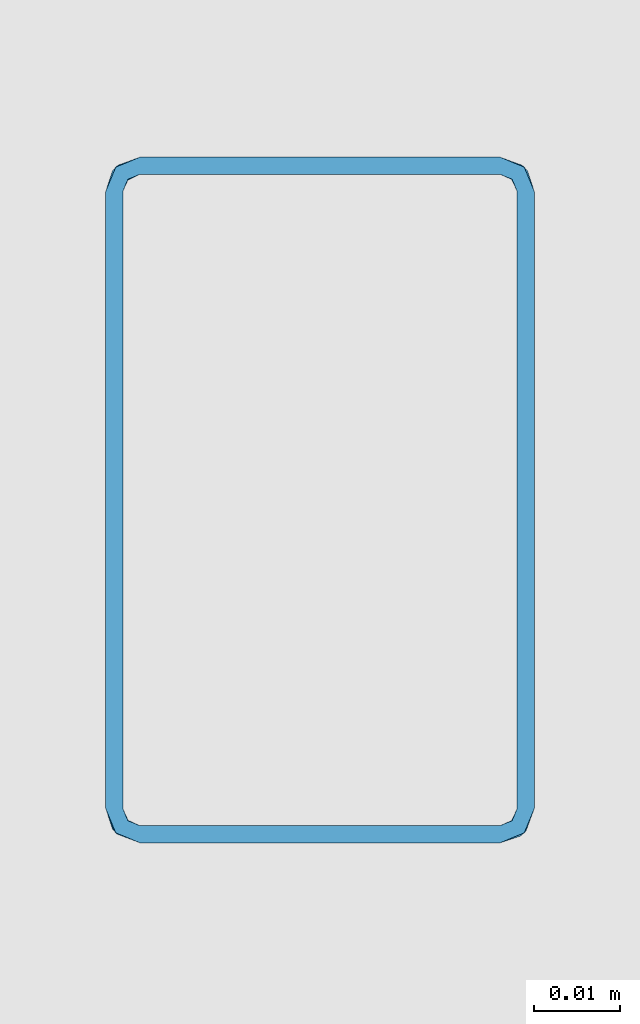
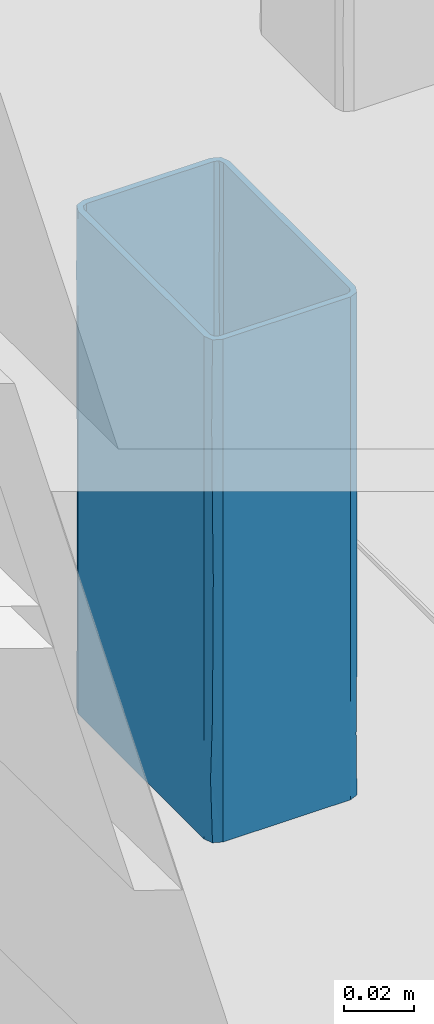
# One storey, part 153 of 186: 1 beam.
"""IFC4X3_ADD2 building model written with IfcOpenShell, lengths in millimetres."""

import ifcopenshell
import ifcopenshell.guid

model = None  # the IFC model being written
_history = None  # IfcOwnerHistory: only IFC2X3 demands one
_inside = {}  # id of a spatial element -> (the spatial element, [elements in it])
_under = {}  # id of a project, library or spatial element -> (it, [spatial elements below it])
_declared = {}  # id of a project -> (the project, [libraries it declares])
_typed = {}  # id of a type object -> (the type object, [elements of that type])
_made_of = {}  # id of a material, layer set ... -> (it, [elements and type objects made of it])


def new_model(schema):
    """Start an empty IFC model of exactly this schema.

    Asked for "IFC4X3", IfcOpenShell would pick the latest addendum, in which some entities
    have other attributes; the version numbers below select the first issue.
    IFC2X3 requires an IfcOwnerHistory on every rooted entity: one is made here for all.
    """
    global model, _history
    if schema == "IFC4X3":
        model = ifcopenshell.file(schema_version=(4, 3, 0, 0))
    else:
        model = ifcopenshell.file(schema=schema)
    _inside.clear()
    _under.clear()
    _declared.clear()
    _typed.clear()
    _made_of.clear()
    _history = None
    if model.schema == "IFC2X3":
        org = make("IfcOrganization", Name="unknown")
        user = make(
            "IfcPersonAndOrganization",
            ThePerson=make("IfcPerson", FamilyName="unknown"),
            TheOrganization=org,
        )
        app = make(
            "IfcApplication",
            ApplicationDeveloper=org,
            Version="unknown",
            ApplicationFullName="unknown",
            ApplicationIdentifier="unknown",
        )
        _history = make(
            "IfcOwnerHistory",
            OwningUser=user,
            OwningApplication=app,
            ChangeAction="ADDED",
            CreationDate=0,
        )
    return model


def make(cls, **values):
    """One entity of the class cls with the attributes given. An attribute that is None is left unset."""
    return model.create_entity(
        cls, **{name: value for name, value in values.items() if value is not None}
    )


def rooted(cls, **values):
    """An entity with a GlobalId (a new one), such as an element, a storey or a relation."""
    return make(cls, GlobalId=ifcopenshell.guid.new(), OwnerHistory=_history, **values)


def si_unit(unit_type, name, prefix=None):
    """IfcSIUnit, for example si_unit("LENGTHUNIT", "METRE", prefix="MILLI")."""
    return make("IfcSIUnit", UnitType=unit_type, Prefix=prefix, Name=name)


def assignment(units):
    """IfcUnitAssignment: the units of a project."""
    return None if units is None else make("IfcUnitAssignment", Units=units)


def point(xyz):
    """IfcCartesianPoint."""
    return None if xyz is None else make("IfcCartesianPoint", Coordinates=xyz)


def direction(xyz):
    """IfcDirection."""
    return None if xyz is None else make("IfcDirection", DirectionRatios=xyz)


def frame(location, z_axis=None, x_axis=None):
    """IfcAxis2Placement3D, a coordinate frame: its origin and axes. An axis left out is left unset."""
    return make(
        "IfcAxis2Placement3D",
        Location=point(location),
        Axis=direction(z_axis),
        RefDirection=direction(x_axis),
    )


def origin_with_axes():
    """The frame at (0, 0, 0) with the z axis (0, 0, 1) and the x axis (1, 0, 0) written out."""
    return frame((0.0, 0.0, 0.0), z_axis=(0.0, 0.0, 1.0), x_axis=(1.0, 0.0, 0.0))


def place(relative_to, where):
    """IfcLocalPlacement: puts the frame where relative to a parent placement (None: the world)."""
    return make(
        "IfcLocalPlacement", PlacementRelTo=relative_to, RelativePlacement=where
    )


def context(
    kind, dimensions, precision=None, world=None, true_north=None, identifier=None
):
    """IfcGeometricRepresentationContext, for example the 3D "Model" context."""
    return make(
        "IfcGeometricRepresentationContext",
        ContextIdentifier=identifier,
        ContextType=kind,
        CoordinateSpaceDimension=dimensions,
        Precision=precision,
        WorldCoordinateSystem=world,
        TrueNorth=true_north,
    )


def subcontext(parent, identifier, kind, view, scale=None):
    """IfcGeometricRepresentationSubContext, for example "Body" below "Model"."""
    return make(
        "IfcGeometricRepresentationSubContext",
        ContextIdentifier=identifier,
        ContextType=kind,
        ParentContext=parent,
        TargetScale=scale,
        TargetView=view,
    )


def project(units=None, contexts=None):
    """IfcProject with its units and contexts."""
    return rooted(
        "IfcProject",
        Name="project",
        RepresentationContexts=contexts,
        UnitsInContext=assignment(units),
    )


def spatial(cls, under=None, at=None, **own):
    """A site, building, storey or space (cls), placed at a placement, below another one or the project."""
    s = rooted(cls, ObjectPlacement=at, **own)
    if under is not None:
        _under.setdefault(under.id(), (under, []))[1].append(s)
    return s


def point_list(points):
    """IfcCartesianPointList2D or 3D."""
    cls = (
        "IfcCartesianPointList2D" if len(points[0]) == 2 else "IfcCartesianPointList3D"
    )
    return make(cls, CoordList=points)


def polygons(points, faces, closed=None, point_numbers=None):
    """IfcPolygonalFaceSet: a face is its outer loop, then its inner loops; points numbered from 1."""
    made = []
    for loops in faces:
        if len(loops) == 1:
            made.append(make("IfcIndexedPolygonalFace", CoordIndex=loops[0]))
        else:
            made.append(
                make(
                    "IfcIndexedPolygonalFaceWithVoids",
                    CoordIndex=loops[0],
                    InnerCoordIndices=loops[1:],
                )
            )
    return make(
        "IfcPolygonalFaceSet",
        Coordinates=point_list(points),
        Closed=closed,
        Faces=made,
        PnIndex=point_numbers,
    )


def shape(context_of_items, identifier, shape_type, items):
    """IfcShapeRepresentation: the items that make up one representation, for example the "Body"."""
    return make(
        "IfcShapeRepresentation",
        ContextOfItems=context_of_items,
        RepresentationIdentifier=identifier,
        RepresentationType=shape_type,
        Items=items,
    )


def made_of(thing, what):
    """Note that an element or type object is made of a material, layer set ...; save() writes the relation."""
    if what is not None:
        _made_of.setdefault(what.id(), (what, []))[1].append(thing)
    return thing


def element(
    cls,
    number,
    at=None,
    inside=None,
    cuts=None,
    type_object=None,
    material=None,
    context=None,
    identifier="Body",
    shape_type=None,
    held_by="IfcProductDefinitionShape",
    body=None,
    shapes=None,
    **own,
):
    """One element of the class cls, such as IfcWall. Its Tag is "e" and its number.

    at: its placement. inside: the storey or other place that contains it. cuts: it is an
    opening in that element (IfcRelVoidsElement). A single representation is given by context,
    identifier, shape_type and body (its items); several are given by shapes. held_by: the class
    of the entity that holds the representations. save() writes the other relations.
    """
    e = rooted(cls, Tag="e%d" % number, ObjectPlacement=at, **own)
    if body is not None:
        shapes = [shape(context, identifier, shape_type, body)]
    if shapes is not None:
        e.Representation = make(held_by, Representations=shapes)
    if inside is not None:
        _inside.setdefault(inside.id(), (inside, []))[1].append(e)
    if cuts is not None:
        rooted(
            "IfcRelVoidsElement", RelatingBuildingElement=cuts, RelatedOpeningElement=e
        )
    if type_object is not None:
        _typed.setdefault(type_object.id(), (type_object, []))[1].append(e)
    return made_of(e, material)


def aggregate(whole, parts):
    """IfcRelAggregates: a whole, such as a stair, and the parts it consists of."""
    return rooted("IfcRelAggregates", RelatingObject=whole, RelatedObjects=parts)


def save(model, path):
    """Write the relations noted so far, then the file.

    IfcRelAggregates (storeys below a building ...), IfcRelContainedInSpatialStructure (elements
    in a storey), IfcRelDefinesByType, IfcRelAssociatesMaterial and IfcRelDeclares: one each for
    every whole, place, type object, material and project.
    """
    for whole, parts in _under.values():
        aggregate(whole, parts)
    for where, things in _inside.values():
        rooted(
            "IfcRelContainedInSpatialStructure",
            RelatedElements=things,
            RelatingStructure=where,
        )
    for kind, things in _typed.values():
        rooted("IfcRelDefinesByType", RelatedObjects=things, RelatingType=kind)
    for what, things in _made_of.values():
        rooted("IfcRelAssociatesMaterial", RelatedObjects=things, RelatingMaterial=what)
    for by, libraries in _declared.values():
        rooted("IfcRelDeclares", RelatingContext=by, RelatedDefinitions=libraries)
    model.write(path)


model = new_model("IFC4X3_ADD2")

# Units and contexts
model_context = context("Model", 3, precision=1e-05, world=origin_with_axes(), true_north=direction((0.0, 1.0)))
body_context = subcontext(model_context, "Body", "Model", "MODEL_VIEW")
ifc_project = project(units=[si_unit("LENGTHUNIT", "METRE", prefix="MILLI"), si_unit("AREAUNIT", "SQUARE_METRE"), si_unit("VOLUMEUNIT", "CUBIC_METRE"), si_unit("PLANEANGLEUNIT", "RADIAN"), si_unit("TIMEUNIT", "SECOND"), si_unit("MASSUNIT", "GRAM")], contexts=[model_context])

# Site, building, storey
site_placement = place(None, origin_with_axes())
site = spatial("IfcSite", under=ifc_project, at=site_placement, Name="Site", CompositionType="ELEMENT")
building_placement = place(site_placement, origin_with_axes())
building = spatial("IfcBuilding", under=site, at=building_placement, Name="IFC Building Story")
storey_placement = place(building_placement, frame((0.0, 0.0, 4370.0), z_axis=(0.0, 0.0, 1.0), x_axis=(1.0, 0.0, 0.0)))
storey = spatial("IfcBuildingStorey", under=building, at=storey_placement, Name="ETAGE 10 (1)", Elevation=4370.0)

# Beam
beam_placement = place(storey_placement, frame((0.0, 0.0, -4370.0), z_axis=(0.0, 0.0, 1.0), x_axis=(1.0, 0.0, 0.0)))
element("IfcBeam", 1, at=beam_placement, inside=storey, Name="PS9", ObjectType="K50*80*2", context=body_context, shape_type="Tessellation", body=[
    polygons([(39853.18902108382, -161.029537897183, 7310.001152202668), (39851.18902108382, -161.029537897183, 7310.001152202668), (39853.77480752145, -162.4437514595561, 7310.001152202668), (39851.18902108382, -89.02953789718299, 7310.001152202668), (39853.18902108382, -89.02953789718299, 7310.001152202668), (39853.77480752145, -87.61532433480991, 7310.001152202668), (39852.36059395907, -86.20111077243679, 7310.001152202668), (39855.18902108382, -85.02953789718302, 7310.001152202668), (39855.18902108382, -87.029537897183, 7310.001152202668), (39897.18902108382, -87.029537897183, 7310.001152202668), (39897.18902108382, -85.02953789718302, 7310.001152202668), (39898.6032346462, -87.61532433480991, 7310.001152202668), (39900.01744820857, -86.20111077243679, 7310.001152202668), (39901.18902108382, -89.02953789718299, 7310.001152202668), (39899.18902108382, -89.02953789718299, 7310.001152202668), (39899.18902108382, -161.029537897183, 7310.001152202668), (39901.18902108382, -161.029537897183, 7310.001152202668), (39898.6032346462, -162.4437514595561, 7310.001152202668), (39900.01744820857, -163.8579650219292, 7310.001152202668), (39897.18902108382, -165.029537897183, 7310.001152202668), (39897.18902108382, -163.029537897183, 7310.001152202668), (39855.18902108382, -165.029537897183, 7310.001152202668), (39855.18902108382, -163.029537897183, 7310.001152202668), (39852.36059395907, -163.8579650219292, 7310.001152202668), (39899.18902108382, -161.029537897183, 7134.601152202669), (39901.18902108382, -161.029537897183, 7134.601152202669), (39898.6032346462, -162.4437514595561, 7134.601152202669), (39901.18902108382, -89.02953789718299, 7134.601152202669), (39899.18902108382, -89.02953789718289, 7134.601152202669), (39898.6032346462, -87.61532433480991, 7134.601152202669), (39900.01744820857, -86.20111077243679, 7134.601152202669), (39897.18902108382, -85.02953789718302, 7134.601152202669), (39897.18902108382, -87.029537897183, 7134.601152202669), (39855.18902108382, -87.029537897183, 7134.601152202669), (39855.18902108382, -85.02953789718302, 7134.601152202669), (39853.77480752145, -87.61532433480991, 7134.601152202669), (39852.36059395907, -86.20111077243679, 7134.601152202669), (39851.18902108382, -89.02953789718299, 7134.601152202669), (39853.18902108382, -89.02953789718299, 7134.601152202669), (39853.18902108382, -161.029537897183, 7134.601152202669), (39851.18902108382, -161.029537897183, 7134.601152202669), (39853.77480752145, -162.4437514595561, 7134.601152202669), (39852.36059395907, -163.8579650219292, 7134.601152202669), (39855.18902108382, -165.029537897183, 7134.601152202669), (39855.18902108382, -163.029537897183, 7134.601152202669), (39897.18902108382, -165.029537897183, 7134.601152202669), (39897.18902108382, -163.029537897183, 7134.601152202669), (39900.01744820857, -163.8579650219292, 7134.601152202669), (39901.18902108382, -161.029537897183, 7292.542629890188), (39901.18902108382, -161.029537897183, 7266.151152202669), (39901.18902108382, -161.029537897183, 7244.226152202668), (39901.18902108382, -161.029537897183, 7222.30115220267), (39901.18902108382, -161.029537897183, 7200.376152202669), (39901.18902108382, -161.029537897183, 7178.451152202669), (39901.18902108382, -161.029537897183, 7152.05967451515), (39901.18902108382, -89.02953789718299, 7169.518198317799), (39901.18902108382, -89.02953789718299, 7187.384107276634), (39901.18902108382, -89.02953789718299, 7213.775584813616), (39901.18902108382, -89.02953789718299, 7240.1670623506), (39901.18902108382, -89.02953789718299, 7257.625584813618), (39901.18902108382, -89.02953789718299, 7275.084107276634), (39900.10473245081, -86.2911757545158, 7178.451154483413), (39897.18902108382, -85.02953789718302, 7200.376152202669), (39899.88767482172, -86.0770359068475, 7211.338654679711), (39897.18902108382, -85.02953789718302, 7178.451152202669), (39900.412865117, -86.66166339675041, 7156.44724682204), (39897.18902108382, -85.02953789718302, 7152.059675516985), (39899.83891352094, -86.0331951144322, 7279.346891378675), (39897.18902108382, -85.02953789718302, 7222.30115220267), (39897.18902108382, -85.02953789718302, 7292.542628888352), (39899.82499126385, -86.0209400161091, 7235.928986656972), (39899.7718907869, -85.97523206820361, 7257.639654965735), (39897.18902108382, -85.02953789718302, 7266.151152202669), (39897.18902108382, -85.02953789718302, 7244.226152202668), (39855.18902108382, -85.02953789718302, 7152.05967493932), (39855.18902108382, -85.02953789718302, 7178.451152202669), (39855.18902108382, -85.02953789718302, 7200.376152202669), (39855.18902108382, -85.02953789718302, 7222.30115220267), (39855.18902108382, -85.02953789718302, 7244.226152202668), (39855.1890210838, -85.02953789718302, 7266.151152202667), (39855.18902108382, -85.02953789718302, 7292.542629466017), (39851.18902108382, -89.02953789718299, 7169.518197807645), (39852.53912872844, -86.0331950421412, 7165.255417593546), (39852.27330972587, -86.2911757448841, 7266.151153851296), (39851.96517708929, -86.66166334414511, 7288.155059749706), (39852.49036732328, -86.0770359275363, 7233.263654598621), (39851.18902108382, -89.02953789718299, 7257.218197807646), (39851.18902108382, -89.02953789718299, 7275.084106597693), (39852.55305081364, -86.0209400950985, 7208.673324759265), (39851.18902108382, -89.02953789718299, 7204.435243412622), (39851.18902108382, -89.02953789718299, 7230.826720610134), (39851.18902108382, -89.02953789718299, 7186.976720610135), (39852.60615109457, -85.9752323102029, 7186.96265531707), (39851.18902108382, -161.029537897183, 7169.518197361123), (39851.18902108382, -161.029537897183, 7195.909674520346), (39851.18902108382, -161.029537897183, 7222.30115220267), (39851.18902108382, -161.029537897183, 7244.226152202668), (39851.18902108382, -161.029537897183, 7266.151152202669), (39851.18902108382, -161.029537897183, 7292.542629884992), (39852.19267832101, -163.6794303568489, 7279.346891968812), (39852.33750844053, -163.8346895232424, 7252.757770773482), (39855.18902108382, -165.029537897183, 7275.084106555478), (39852.36059383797, -163.8579649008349, 7178.451156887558), (39851.97546159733, -163.4113513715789, 7156.526155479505), (39855.18902108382, -165.029537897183, 7169.518197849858), (39855.1890210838, -165.029537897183, 7187.384105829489), (39852.53484653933, -164.0220882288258, 7226.971325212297), (39852.44217950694, -163.9372623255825, 7202.816801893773), (39855.18902108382, -165.029537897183, 7213.775584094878), (39855.18902108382, -165.029537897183, 7240.167060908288), (39897.18902108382, -165.029537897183, 7169.518197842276), (39897.18902108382, -165.029537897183, 7187.38410656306), (39897.18902108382, -165.029537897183, 7213.775583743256), (39897.18902108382, -165.029537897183, 7240.167060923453), (39897.18902108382, -165.029537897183, 7257.625583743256), (39897.18902108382, -165.029537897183, 7275.084106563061), (39899.92738319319, -163.9452492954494, 7178.451154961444), (39900.141523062, -163.7281916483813, 7211.338655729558), (39899.55689557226, -164.2533819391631, 7156.447247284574), (39900.18536385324, -163.679430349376, 7279.346891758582), (39900.19761894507, -163.6655080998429, 7235.928987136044), (39900.24332688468, -163.6124076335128, 7257.639655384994), (39897.18902108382, -163.029537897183, 7260.620992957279), (39898.60323460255, -162.4437515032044, 7266.79351382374), (39898.60323461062, -162.4437514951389, 7253.588146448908), (39898.60803615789, -162.4389335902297, 7166.185490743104), (39898.68447855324, -162.3575465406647, 7153.118713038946), (39897.18902108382, -163.029537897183, 7153.761072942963), (39899.18902108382, -161.029537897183, 7200.376152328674), (39899.18902108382, -161.029537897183, 7189.413652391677), (39898.65155139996, -162.3937244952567, 7194.894904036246), (39898.64161718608, -162.4042977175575, 7229.758395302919), (39899.18902108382, -161.029537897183, 7222.30115220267), (39898.49278509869, -162.5461787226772, 7218.574708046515), (39897.18902108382, -163.029537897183, 7235.930913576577), (39898.52998134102, -162.5133928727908, 7241.603315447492), (39897.18902108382, -163.029537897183, 7172.920993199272), (39899.18902108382, -161.029537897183, 7146.94619185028), (39899.18902108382, -161.029537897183, 7297.656112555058), (39899.18902108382, -161.029537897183, 7260.620993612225), (39897.18902108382, -163.029537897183, 7272.96603264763), (39898.5552384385, -162.4901713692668, 7279.138553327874), (39898.54752521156, -162.4973480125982, 7177.909609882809), (39899.18902108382, -161.029537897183, 7178.451152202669), (39897.18902108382, -163.029537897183, 7297.656112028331), (39898.6032346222, -162.4437514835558, 7291.483592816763), (39897.18902108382, -163.029537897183, 7285.31107233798), (39899.18902108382, -161.029537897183, 7272.966033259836), (39899.18902108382, -161.029537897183, 7285.311072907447), (39899.18902108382, -161.029537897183, 7159.29123149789), (39899.18902108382, -161.029537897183, 7241.461072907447), (39897.18902108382, -163.029537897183, 7248.275953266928), (39898.68034286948, -162.3621891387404, 7207.451873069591), (39897.18902108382, -163.029537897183, 7192.08091345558), (39897.18902108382, -163.029537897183, 7211.240834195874), (39899.18902108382, -161.029537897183, 7211.338652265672), (39897.18902108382, -163.029537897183, 7223.585873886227), (39855.18902108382, -163.029537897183, 7146.94619214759), (39855.18902108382, -163.029537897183, 7159.29123153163), (39855.18902108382, -163.029537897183, 7178.451151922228), (39855.18902108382, -163.029537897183, 7189.413651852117), (39855.18902108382, -163.029537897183, 7200.376151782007), (39855.18902108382, -163.029537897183, 7211.338651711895), (39855.18902108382, -163.029537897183, 7222.30115220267), (39855.18902108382, -163.029537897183, 7233.26365269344), (39855.18902108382, -163.029537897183, 7244.226152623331), (39855.18902108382, -163.029537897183, 7255.188652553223), (39855.1890210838, -163.029537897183, 7266.151152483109), (39855.18902108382, -163.029537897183, 7285.311073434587), (39855.18902108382, -163.029537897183, 7297.65611281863), (39853.67238028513, -162.3333019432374, 7226.027598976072), (39853.81426129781, -162.4821340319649, 7214.843911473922), (39853.18902108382, -161.029537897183, 7221.016429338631), (39853.77962538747, -162.4485529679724, 7278.416816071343), (39853.72121098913, -162.3880420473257, 7266.692697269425), (39853.18902108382, -161.029537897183, 7271.681310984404), (39853.86101241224, -162.5249953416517, 7291.483593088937), (39853.18902108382, -161.029537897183, 7290.841231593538), (39853.7748075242, -162.4437514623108, 7166.324080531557), (39853.77480753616, -162.4437514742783, 7153.118712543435), (39853.18902108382, -161.029537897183, 7159.291232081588), (39853.18902108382, -161.029537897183, 7146.94619263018), (39853.18902108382, -161.029537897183, 7208.671389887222), (39853.71372270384, -162.3799062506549, 7202.829400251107), (39853.82483451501, -162.4920682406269, 7249.707403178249), (39853.85636986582, -162.5208597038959, 7237.150434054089), (39853.18902108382, -161.029537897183, 7171.636271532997), (39853.8431372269, -162.508928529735, 7183.932403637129), (39853.18902108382, -161.029537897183, 7233.361469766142), (39853.18902108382, -161.029537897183, 7252.521390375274), (39853.18902108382, -161.029537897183, 7183.981310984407), (39853.18902108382, -161.029537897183, 7196.326350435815), (39853.18902108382, -89.02953789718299, 7146.946190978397), (39853.18902108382, -89.02953789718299, 7156.526152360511), (39853.18902108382, -89.02953789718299, 7167.488652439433), (39853.18902108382, -89.02953789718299, 7178.451152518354), (39853.18902108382, -89.02953789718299, 7189.413652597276), (39853.18902108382, -89.02953789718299, 7200.376152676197), (39853.18902108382, -89.02953789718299, 7211.338652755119), (39853.18902108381, -89.02953789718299, 7222.301152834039), (39853.18902108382, -89.02953789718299, 7233.263652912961), (39853.18902108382, -89.02953789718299, 7244.226152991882), (39853.18902108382, -89.02953789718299, 7255.188653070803), (39853.18902108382, -89.02953789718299, 7266.151153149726), (39853.18902108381, -89.02953789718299, 7285.31107338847), (39853.18902108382, -89.02953789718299, 7297.656112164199), (39853.68074525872, -87.71610573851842, 7185.181957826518), (39853.7133936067, -87.6795291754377, 7172.969903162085), (39853.76446295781, -87.6257451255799, 7228.04246928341), (39853.86422714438, -87.53123184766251, 7240.591089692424), (39855.18902108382, -87.029537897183, 7159.291231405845), (39853.60877604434, -87.80364001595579, 7162.309226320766), (39853.7748075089, -87.6153243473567, 7151.736172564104), (39853.69356363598, -87.7015292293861, 7291.483593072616), (39855.18902108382, -87.029537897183, 7290.841231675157), (39855.18902108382, -87.029537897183, 7171.636271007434), (39855.18902108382, -87.029537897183, 7183.981310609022), (39853.85141847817, -87.5426554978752, 7202.498871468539), (39855.18902108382, -87.029537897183, 7146.946191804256), (39853.77000600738, -87.6201422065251, 7278.416816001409), (39853.77995815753, -87.6101923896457, 7215.571120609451), (39855.18902108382, -87.029537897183, 7208.671389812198), (39855.18902108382, -87.029537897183, 7196.32635021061), (39855.18902108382, -87.029537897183, 7221.01643049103), (39855.18902108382, -87.029537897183, 7233.361470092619), (39855.18902108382, -87.029537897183, 7271.681311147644), (39853.85788155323, -87.5368666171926, 7260.669902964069), (39855.18902108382, -87.029537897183, 7252.521390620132), (39897.18902108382, -87.029537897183, 7146.946191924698), (39897.18902108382, -87.029537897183, 7159.291231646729), (39897.18902108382, -87.029537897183, 7171.636271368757), (39897.18902108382, -87.029537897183, 7183.981311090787), (39897.18902108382, -87.029537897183, 7196.326350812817), (39897.18902108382, -87.029537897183, 7208.671390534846), (39897.18902108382, -87.029537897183, 7221.016430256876), (39897.18902108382, -87.029537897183, 7233.361469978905), (39897.18902108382, -87.029537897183, 7252.521390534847), (39897.18902108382, -87.029537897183, 7271.681311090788), (39897.18902108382, -87.029537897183, 7290.841231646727), (39898.60803617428, -87.62014222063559, 7278.416816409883), (39898.68447854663, -87.7015292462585, 7291.483593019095), (39898.52998143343, -87.5456830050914, 7202.998993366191), (39898.64161728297, -87.65477817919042, 7214.843912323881), (39898.60323460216, -87.6153242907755, 7153.118715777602), (39898.60323458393, -87.6153242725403, 7166.324081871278), (39899.18902108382, -89.02953789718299, 7159.291231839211), (39899.18902108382, -89.02953789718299, 7244.226152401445), (39899.18902108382, -89.02953789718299, 7255.188652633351), (39898.65155147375, -87.6653513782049, 7249.707403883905), (39899.18902108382, -89.02953789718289, 7297.656112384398), (39899.18902108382, -89.02953789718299, 7146.946192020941), (39898.49278527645, -87.51289722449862, 7226.027600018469), (39898.5475252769, -87.5617278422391, 7266.692698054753), (39899.18902108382, -89.02953789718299, 7266.151152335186), (39899.18902108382, -89.02953789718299, 7171.636271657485), (39898.66498249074, -87.67989426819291, 7178.287654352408), (39899.18902108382, -89.02953789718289, 7285.311072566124), (39898.60872344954, -87.62083452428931, 7190.254039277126), (39898.68034291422, -87.69688670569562, 7237.150435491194), (39899.18902108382, -89.02953789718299, 7233.263652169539), (39899.18902108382, -89.02953789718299, 7222.301152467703), (39899.18902108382, -89.02953789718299, 7203.141232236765), (39899.18902108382, -89.02953789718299, 7183.981311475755)], [[[1, 2, 3]], [[2, 1, 4]], [[5, 4, 1]], [[6, 4, 5]], [[7, 4, 6]], [[6, 8, 7]], [[6, 9, 8]], [[8, 9, 10]], [[10, 11, 8]], [[10, 12, 11]], [[11, 12, 13]], [[14, 13, 12]], [[14, 12, 15]], [[14, 15, 16]], [[16, 17, 14]], [[18, 17, 16]], [[17, 18, 19]], [[18, 20, 19]], [[21, 20, 18]], [[20, 21, 22]], [[23, 22, 21]], [[3, 22, 23]], [[22, 3, 24]], [[3, 2, 24]], [[25, 26, 27]], [[26, 25, 28]], [[29, 28, 25]], [[30, 28, 29]], [[31, 28, 30]], [[30, 32, 31]], [[30, 33, 32]], [[32, 33, 34]], [[34, 35, 32]], [[34, 36, 35]], [[35, 36, 37]], [[38, 37, 36]], [[38, 36, 39]], [[38, 39, 40]], [[40, 41, 38]], [[42, 41, 40]], [[41, 42, 43]], [[42, 44, 43]], [[45, 44, 42]], [[44, 45, 46]], [[47, 46, 45]], [[27, 46, 47]], [[46, 27, 48]], [[27, 26, 48]], [[55, 26, 28]], [[28, 56, 54]], [[28, 54, 55]], [[56, 57, 53]], [[56, 53, 54]], [[57, 58, 52]], [[57, 52, 53]], [[58, 59, 51]], [[58, 51, 52]], [[59, 60, 50]], [[59, 50, 51]], [[61, 14, 49]], [[61, 49, 50]], [[50, 60, 61]], [[14, 17, 49]], [[62, 63, 64]], [[65, 66, 67]], [[14, 61, 68]], [[64, 63, 69]], [[70, 11, 13]], [[31, 32, 67]], [[62, 56, 66]], [[71, 59, 58]], [[57, 56, 62]], [[62, 66, 65]], [[13, 14, 68]], [[60, 59, 72, 61]], [[28, 31, 66]], [[58, 64, 71]], [[64, 57, 62]], [[73, 70, 68]], [[62, 65, 63]], [[64, 69, 71]], [[64, 58, 57]], [[71, 69, 74]], [[28, 66, 56]], [[67, 66, 31]], [[13, 68, 70]], [[71, 72, 59]], [[68, 72, 73]], [[72, 68, 61]], [[72, 74, 73]], [[74, 72, 71]], [[67, 32, 35]], [[67, 35, 75]], [[75, 76, 65]], [[75, 65, 67]], [[76, 77, 63]], [[76, 63, 65]], [[77, 78, 69]], [[77, 69, 63]], [[78, 79, 74]], [[78, 74, 69]], [[79, 80, 73]], [[79, 73, 74]], [[80, 81, 70]], [[80, 70, 73]], [[81, 8, 11]], [[81, 11, 70]], [[38, 82, 83]], [[84, 85, 80]], [[86, 84, 79]], [[87, 88, 84]], [[86, 79, 78]], [[80, 85, 81]], [[84, 88, 85]], [[37, 38, 83]], [[84, 80, 79]], [[89, 90, 91]], [[92, 90, 93, 82]], [[4, 7, 85]], [[91, 86, 89]], [[75, 83, 76]], [[86, 87, 84]], [[75, 35, 37]], [[7, 8, 81]], [[86, 78, 89]], [[86, 91, 87]], [[89, 78, 77]], [[4, 85, 88]], [[81, 85, 7]], [[37, 83, 75]], [[89, 93, 90]], [[83, 93, 76]], [[93, 83, 82]], [[93, 77, 76]], [[77, 93, 89]], [[82, 38, 41]], [[82, 41, 94]], [[94, 95, 92]], [[94, 92, 82]], [[95, 90, 92]], [[95, 96, 91]], [[95, 91, 90]], [[97, 98, 87]], [[87, 91, 96]], [[87, 96, 97]], [[98, 88, 87]], [[99, 2, 4]], [[4, 88, 98]], [[4, 98, 99]], [[99, 98, 100]], [[101, 102, 100]], [[103, 94, 104]], [[22, 24, 100]], [[43, 104, 41]], [[103, 95, 94]], [[105, 106, 103]], [[97, 107, 101]], [[24, 99, 100]], [[44, 105, 104]], [[108, 107, 96]], [[103, 104, 105]], [[108, 106, 109]], [[107, 108, 109]], [[110, 107, 109]], [[24, 2, 99]], [[41, 104, 94]], [[104, 43, 44]], [[101, 107, 110]], [[108, 96, 95]], [[102, 101, 110]], [[97, 96, 107]], [[95, 103, 108]], [[106, 108, 103]], [[101, 100, 98]], [[100, 102, 22]], [[101, 98, 97]], [[105, 44, 46]], [[105, 46, 111]], [[111, 112, 106]], [[111, 106, 105]], [[112, 113, 109]], [[112, 109, 106]], [[113, 114, 110]], [[113, 110, 109]], [[115, 116, 102]], [[102, 110, 114]], [[102, 114, 115]], [[116, 20, 22]], [[116, 22, 102]], [[117, 53, 118]], [[54, 119, 55]], [[20, 116, 120]], [[118, 53, 52]], [[49, 17, 19]], [[48, 26, 55]], [[117, 111, 119]], [[121, 114, 113]], [[112, 111, 117]], [[117, 119, 54]], [[19, 20, 120]], [[115, 114, 122, 116]], [[46, 48, 119]], [[113, 118, 121]], [[118, 112, 117]], [[50, 49, 120]], [[117, 54, 53]], [[118, 52, 121]], [[118, 113, 112]], [[121, 52, 51]], [[46, 119, 111]], [[55, 119, 48]], [[19, 120, 49]], [[121, 122, 114]], [[120, 122, 50]], [[122, 120, 116]], [[122, 51, 50]], [[51, 122, 121]], [[123, 124, 125]], [[126, 127, 128]], [[129, 130, 131]], [[132, 133, 134]], [[132, 135, 136]], [[126, 128, 137]], [[138, 25, 27]], [[18, 16, 139]], [[27, 127, 138]], [[125, 124, 140]], [[141, 142, 124]], [[143, 144, 126]], [[141, 124, 123]], [[145, 146, 147]], [[148, 142, 149]], [[127, 27, 47]], [[138, 127, 150]], [[145, 21, 18]], [[146, 18, 139]], [[18, 146, 145]], [[142, 146, 149]], [[142, 141, 147]], [[149, 146, 139]], [[132, 151, 133]], [[152, 123, 125]], [[125, 140, 151]], [[126, 150, 127]], [[47, 128, 127]], [[126, 144, 150]], [[153, 131, 154]], [[148, 140, 124]], [[124, 142, 148]], [[146, 142, 147]], [[130, 144, 143]], [[135, 152, 136]], [[143, 126, 137]], [[155, 153, 154]], [[143, 137, 154]], [[153, 129, 131]], [[143, 131, 130]], [[154, 131, 143]], [[156, 129, 153]], [[132, 134, 157]], [[135, 132, 157]], [[155, 134, 153]], [[151, 132, 136]], [[136, 125, 151]], [[125, 136, 152]], [[157, 134, 155]], [[133, 156, 134]], [[156, 153, 134]], [[158, 159, 128]], [[128, 47, 45]], [[128, 45, 158]], [[159, 160, 137]], [[159, 137, 128]], [[160, 161, 154]], [[160, 154, 137]], [[162, 163, 155]], [[162, 155, 154]], [[154, 161, 162]], [[163, 164, 157]], [[163, 157, 155]], [[164, 165, 135]], [[164, 135, 157]], [[165, 166, 152]], [[165, 152, 135]], [[166, 167, 123]], [[166, 123, 152]], [[167, 168, 141]], [[167, 141, 123]], [[168, 169, 147]], [[168, 147, 141]], [[169, 170, 145]], [[169, 145, 147]], [[170, 23, 21]], [[170, 21, 145]], [[171, 172, 173]], [[174, 175, 176]], [[158, 45, 42]], [[3, 23, 170]], [[177, 1, 3]], [[178, 1, 177]], [[179, 180, 181]], [[182, 180, 42]], [[183, 172, 184]], [[169, 174, 177]], [[185, 166, 186]], [[169, 177, 170]], [[179, 187, 188]], [[40, 182, 42]], [[179, 181, 187]], [[159, 180, 179]], [[42, 180, 158]], [[182, 181, 180]], [[177, 174, 178]], [[180, 159, 158]], [[179, 160, 159]], [[179, 188, 160]], [[173, 189, 171]], [[170, 177, 3]], [[176, 178, 174]], [[168, 175, 174]], [[174, 169, 168]], [[175, 190, 176]], [[185, 186, 190]], [[190, 175, 185]], [[168, 167, 175]], [[167, 185, 175]], [[185, 167, 166]], [[189, 190, 186]], [[172, 183, 173]], [[186, 165, 171]], [[161, 160, 188]], [[171, 165, 164]], [[172, 163, 184]], [[191, 192, 188, 187]], [[162, 161, 184, 163]], [[184, 188, 192]], [[161, 188, 184]], [[192, 183, 184]], [[172, 171, 164]], [[186, 166, 165]], [[186, 171, 189]], [[172, 164, 163]], [[182, 40, 39]], [[182, 39, 193]], [[193, 194, 181]], [[193, 181, 182]], [[194, 195, 187]], [[194, 187, 181]], [[196, 197, 191]], [[191, 187, 195]], [[191, 195, 196]], [[197, 198, 192]], [[197, 192, 191]], [[198, 199, 183]], [[198, 183, 192]], [[199, 200, 173]], [[199, 173, 183]], [[200, 201, 189]], [[200, 189, 173]], [[202, 203, 190]], [[190, 189, 201]], [[190, 201, 202]], [[203, 204, 176]], [[203, 176, 190]], [[204, 205, 178]], [[204, 178, 176]], [[206, 5, 1]], [[206, 1, 178]], [[178, 205, 206]], [[207, 196, 208]], [[201, 209, 210]], [[211, 212, 213]], [[214, 9, 6]], [[215, 9, 214]], [[216, 217, 208]], [[207, 218, 197]], [[36, 219, 213]], [[205, 220, 214]], [[200, 221, 209]], [[205, 214, 206]], [[212, 195, 194]], [[193, 36, 213, 194]], [[193, 39, 36]], [[6, 5, 206]], [[214, 220, 215]], [[36, 34, 219]], [[213, 219, 211]], [[195, 212, 208]], [[195, 208, 196]], [[217, 207, 208]], [[211, 216, 212]], [[222, 221, 218]], [[198, 197, 218, 199]], [[223, 218, 207]], [[222, 218, 223]], [[207, 217, 223]], [[221, 199, 218]], [[224, 225, 209]], [[221, 224, 209]], [[206, 214, 6]], [[226, 215, 220]], [[226, 220, 227]], [[220, 205, 204]], [[202, 201, 210, 203]], [[203, 227, 204]], [[221, 222, 224]], [[227, 210, 228]], [[210, 209, 225]], [[210, 225, 228]], [[210, 227, 203]], [[204, 227, 220]], [[227, 228, 226]], [[216, 208, 212]], [[213, 212, 194]], [[197, 196, 207]], [[201, 200, 209]], [[221, 200, 199]], [[219, 34, 33]], [[219, 33, 229]], [[229, 230, 211]], [[229, 211, 219]], [[230, 231, 216]], [[230, 216, 211]], [[231, 232, 217]], [[231, 217, 216]], [[232, 233, 223]], [[232, 223, 217]], [[233, 234, 222]], [[233, 222, 223]], [[234, 235, 224]], [[234, 224, 222]], [[235, 236, 225]], [[235, 225, 224]], [[236, 237, 228]], [[236, 228, 225]], [[237, 238, 226]], [[237, 226, 228]], [[238, 239, 215]], [[238, 215, 226]], [[239, 10, 9]], [[239, 9, 215]], [[240, 241, 239]], [[242, 243, 234]], [[230, 229, 244]], [[245, 244, 246]], [[234, 243, 235]], [[247, 248, 249]], [[250, 15, 12]], [[29, 251, 30]], [[239, 238, 240]], [[252, 235, 243]], [[12, 241, 250]], [[253, 254, 240]], [[245, 255, 256]], [[30, 244, 229]], [[241, 12, 10]], [[250, 241, 257]], [[229, 33, 30]], [[251, 246, 244]], [[30, 251, 244]], [[230, 244, 245]], [[231, 230, 245]], [[256, 258, 232]], [[240, 257, 241]], [[10, 239, 241]], [[240, 254, 257]], [[259, 249, 237]], [[248, 254, 253]], [[232, 231, 256]], [[245, 246, 255]], [[253, 240, 238]], [[236, 259, 237]], [[253, 238, 237]], [[259, 247, 249]], [[253, 249, 248]], [[237, 249, 253]], [[260, 247, 259]], [[261, 252, 243]], [[243, 262, 261]], [[236, 252, 259]], [[242, 258, 262]], [[262, 243, 242]], [[263, 262, 258]], [[242, 233, 258]], [[233, 232, 258]], [[242, 234, 233]], [[256, 263, 258]], [[263, 256, 255]], [[231, 245, 256]], [[235, 252, 236]], [[261, 260, 252]], [[260, 259, 252]], [[251, 29, 25]], [[251, 25, 138]], [[138, 150, 246]], [[138, 246, 251]], [[150, 144, 255]], [[150, 255, 246]], [[144, 130, 263]], [[144, 263, 255]], [[130, 129, 262]], [[130, 262, 263]], [[156, 133, 261]], [[156, 261, 262]], [[262, 129, 156]], [[133, 151, 260]], [[133, 260, 261]], [[151, 247, 260]], [[151, 140, 248]], [[151, 248, 247]], [[140, 254, 248]], [[148, 149, 257]], [[148, 257, 254]], [[254, 140, 148]], [[149, 139, 250]], [[149, 250, 257]], [[139, 16, 15]], [[139, 15, 250]]]),
])

save(model, "model.ifc")
